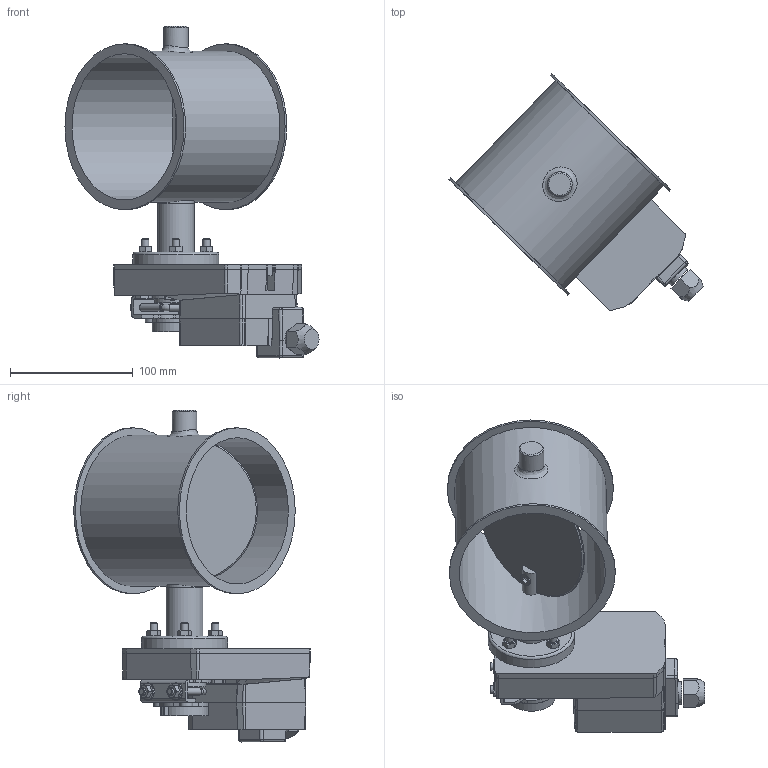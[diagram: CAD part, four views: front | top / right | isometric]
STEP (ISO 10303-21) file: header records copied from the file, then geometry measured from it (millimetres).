
FILE_DESCRIPTION((''),'2;1');
FILE_NAME('U:\Wolfgang\Marcel-3D\fertig\Kapitel 8\1221215.stp','2011-05-03T15:03:43',('TK1'),(''),'Autodesk Inventor 2010','Autodesk Inventor 2010','');
FILE_SCHEMA(('AUTOMOTIVE_DESIGN { 1 0 10303 214 1 1 1 1 }'));
Length unit declared in the file: millimetre
Products named in the file (11): 1221215; Bolzen D15; Scheibe120b; DIN 6912 M6 x 16; 1221211-1; SM24A-Antrieb; BuchseD15 70-50; Distanzstück S; SM24A--A_standard_terminal_1cable; DIN 7991 M6x25; DIN 555 - ersetzt durch DIN EN 24034 M6
Assembly tree (18 placements, depth 3):
  1221215
    Bolzen D15  x2
    Scheibe120b
    DIN 6912 M6 x 16  x2
    1221211-1
    SM24A-Antrieb
      BuchseD15 70-50
      Distanzstück S
      SM24A--A_standard_terminal_1cable
      DIN 7991 M6x25  x4
      DIN 555 - ersetzt durch DIN EN 24034 M6  x4
Bounding box: 206.63 x 192.37 x 270 mm (x, y, z)
Volume: 733690.5 mm3; surface area: 248707.1 mm2
Topology: 20 solids, 20 shells, 712 faces, 1775 edges, 1138 vertices
Faces by surface type: plane 381, cylinder 179, bspline 86, cone 38, torus 20, sphere 8
Full cylindrical faces by diameter (mm): 3 x2, 3.6 x2, 4.2 x4, 4.773 x4, 4.813 x4, 5.1 x1, 5.25 x4, 6 x14, 7 x4, 9.742 x1, 10 x4, 10.083 x1, 12 x4, 14 x4, 15 x2, 15.5 x1, 18.5 x1, 20 x1, 24 x1, 25.194 x1, 26 x2, 30 x2, 30.042 x1, 35 x2, 70 x1, 119 x2, 123 x1, 135 x2
Entity records: 19799 total; most frequent: CARTESIAN_POINT 5168, ORIENTED_EDGE 2838, DIRECTION 2734, EDGE_CURVE 1419, AXIS2_PLACEMENT_3D 976, VERTEX_POINT 966, VECTOR 782, LINE 782
